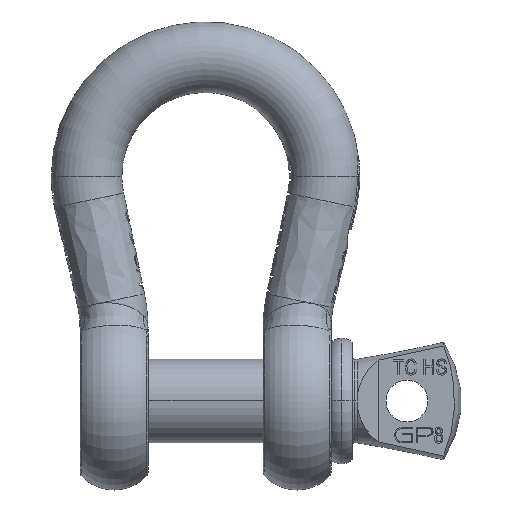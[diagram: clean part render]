
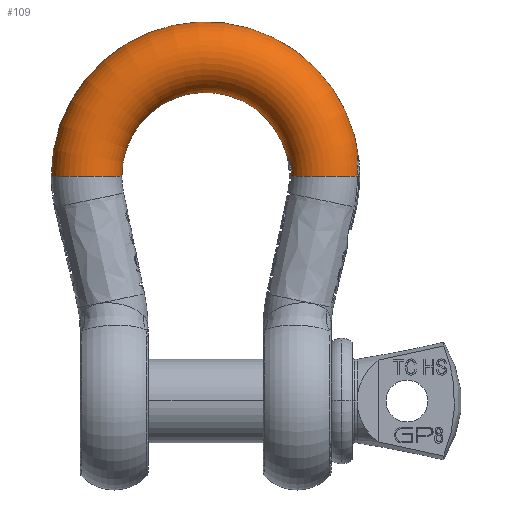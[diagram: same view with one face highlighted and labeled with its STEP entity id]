
A CAD part, top view. The second image highlights one B-rep face of the part: STEP entity #109.
In plain terms, the highlighted toroidal (fillet/blend) face has major radius 22.75 mm and minor radius 6.75 mm.
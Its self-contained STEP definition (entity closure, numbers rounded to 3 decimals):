
#109=ADVANCED_FACE('',(#653),#654,.T.);
#653=FACE_OUTER_BOUND('',#2338,.T.);
#654=TOROIDAL_SURFACE('',#2339,22.75,6.75);
#2338=EDGE_LOOP('',(#9007,#9008,#9009,#9010,#9011,#9012,#9013,#9014,#9015,#9016,#9017,#9018,#9019,#9020));
#2339=AXIS2_PLACEMENT_3D('',#9021,#9022,#9023);
#9007=ORIENTED_EDGE('',*,*,#12637,.T.);
#9008=ORIENTED_EDGE('',*,*,#12701,.T.);
#9009=ORIENTED_EDGE('',*,*,#12702,.T.);
#9010=ORIENTED_EDGE('',*,*,#12646,.T.);
#9011=ORIENTED_EDGE('',*,*,#12703,.T.);
#9012=ORIENTED_EDGE('',*,*,#12704,.T.);
#9013=ORIENTED_EDGE('',*,*,#12705,.T.);
#9014=ORIENTED_EDGE('',*,*,#12640,.T.);
#9015=ORIENTED_EDGE('',*,*,#12706,.T.);
#9016=ORIENTED_EDGE('',*,*,#12707,.T.);
#9017=ORIENTED_EDGE('',*,*,#12708,.T.);
#9018=ORIENTED_EDGE('',*,*,#12657,.T.);
#9019=ORIENTED_EDGE('',*,*,#12709,.T.);
#9020=ORIENTED_EDGE('',*,*,#12710,.T.);
#9021=CARTESIAN_POINT('',(0.0,43.0,0.0));
#9022=DIRECTION('',(0.0,0.0,1.0));
#9023=DIRECTION('',(1.0,0.0,0.0));
#12637=EDGE_CURVE('',#14249,#14177,#14250,.T.);
#12640=EDGE_CURVE('',#14254,#14238,#14255,.T.);
#12646=EDGE_CURVE('',#14180,#14264,#14266,.T.);
#12657=EDGE_CURVE('',#14285,#14282,#14286,.T.);
#12701=EDGE_CURVE('',#14177,#14368,#14369,.T.);
#12702=EDGE_CURVE('',#14368,#14180,#14370,.T.);
#12703=EDGE_CURVE('',#14264,#14371,#14372,.T.);
#12704=EDGE_CURVE('',#14371,#14373,#14374,.T.);
#12705=EDGE_CURVE('',#14373,#14254,#14375,.T.);
#12706=EDGE_CURVE('',#14238,#14376,#14377,.T.);
#12707=EDGE_CURVE('',#14376,#14378,#14379,.T.);
#12708=EDGE_CURVE('',#14378,#14285,#14380,.T.);
#12709=EDGE_CURVE('',#14282,#14381,#14382,.T.);
#12710=EDGE_CURVE('',#14381,#14249,#14383,.T.);
#14177=VERTEX_POINT('',#18127);
#14180=VERTEX_POINT('',#18130);
#14238=VERTEX_POINT('',#18296);
#14249=VERTEX_POINT('',#18315);
#14250=CIRCLE('',#18316,29.5);
#14254=VERTEX_POINT('',#18325);
#14255=CIRCLE('',#18326,16.0);
#14264=VERTEX_POINT('',#18366);
#14266=CIRCLE('',#18383,16.0);
#14282=VERTEX_POINT('',#18405);
#14285=VERTEX_POINT('',#18409);
#14286=B_SPLINE_CURVE_WITH_KNOTS('',3,(#18410,#18411,#18412,#18413,#18414,#18415,#18416,#18417,#18418,#18419,#18420,#18421,#18422,#18423),.UNSPECIFIED.,.F.,.F.,(4,2,2,2,2,2,4),(0.,0.,0.001,0.001,0.002,0.003,0.003),.UNSPECIFIED.);
#14368=VERTEX_POINT('',#18619);
#14369=CIRCLE('',#18620,6.75);
#14370=CIRCLE('',#18621,6.75);
#14371=VERTEX_POINT('',#18622);
#14372=B_SPLINE_CURVE_WITH_KNOTS('',3,(#18623,#18624,#18625,#18626,#18627,#18628,#18629,#18630,#18631,#18632,#18633,#18634,#18635,#18636,#18637,#18638),.UNSPECIFIED.,.F.,.F.,(4,2,2,2,2,2,2,4),(0.,0.,0.001,0.002,0.002,0.003,0.003,0.004),.UNSPECIFIED.);
#14373=VERTEX_POINT('',#18639);
#14374=CIRCLE('',#18640,16.48);
#14375=B_SPLINE_CURVE_WITH_KNOTS('',3,(#18641,#18642,#18643,#18644,#18645,#18646,#18647,#18648,#18649,#18650,#18651,#18652),.UNSPECIFIED.,.F.,.F.,(4,2,2,2,2,4),(0.,0.001,0.002,0.003,0.004,0.005),.UNSPECIFIED.);
#14376=VERTEX_POINT('',#18653);
#14377=CIRCLE('',#18654,6.75);
#14378=VERTEX_POINT('',#18655);
#14379=CIRCLE('',#18656,29.021);
#14380=B_SPLINE_CURVE_WITH_KNOTS('',3,(#18657,#18658,#18659,#18660),.UNSPECIFIED.,.F.,.F.,(4,4),(0.001,0.002),.UNSPECIFIED.);
#14381=VERTEX_POINT('',#18661);
#14382=B_SPLINE_CURVE_WITH_KNOTS('',3,(#18662,#18663,#18664,#18665,#18666,#18667,#18668,#18669,#18670,#18671,#18672,#18673,#18674,#18675),.UNSPECIFIED.,.F.,.F.,(4,2,2,2,2,2,4),(0.,0.,0.001,0.001,0.002,0.003,0.003),.UNSPECIFIED.);
#14383=B_SPLINE_CURVE_WITH_KNOTS('',3,(#18676,#18677,#18678,#18679,#18680,#18681),.UNSPECIFIED.,.F.,.F.,(4,2,4),(0.,0.001,0.001),.UNSPECIFIED.);
#18127=CARTESIAN_POINT('',(-29.5,43.0,0.));
#18130=CARTESIAN_POINT('',(-16.0,43.0,0.));
#18296=CARTESIAN_POINT('',(16.0,43.0,0.));
#18315=CARTESIAN_POINT('',(29.361,45.858,0.));
#18316=AXIS2_PLACEMENT_3D('',#24633,#24634,#24635);
#18325=CARTESIAN_POINT('',(15.991,43.533,0.));
#18326=AXIS2_PLACEMENT_3D('',#24639,#24640,#24641);
#18366=CARTESIAN_POINT('',(15.469,47.09,0.));
#18383=AXIS2_PLACEMENT_3D('',#24645,#24646,#24647);
#18405=CARTESIAN_POINT('',(29.158,46.744,1.171));
#18409=CARTESIAN_POINT('',(28.932,45.975,2.33));
#18410=CARTESIAN_POINT('',(28.932,45.975,2.33));
#18411=CARTESIAN_POINT('',(28.936,46.089,2.288));
#18412=CARTESIAN_POINT('',(28.946,46.195,2.23));
#18413=CARTESIAN_POINT('',(28.974,46.386,2.083));
#18414=CARTESIAN_POINT('',(28.992,46.469,1.996));
#18415=CARTESIAN_POINT('',(29.054,46.673,1.702));
#18416=CARTESIAN_POINT('',(29.104,46.744,1.464));
#18417=CARTESIAN_POINT('',(29.192,46.746,0.99));
#18418=CARTESIAN_POINT('',(29.231,46.675,0.75));
#18419=CARTESIAN_POINT('',(29.279,46.483,0.448));
#18420=CARTESIAN_POINT('',(29.294,46.404,0.355));
#18421=CARTESIAN_POINT('',(29.321,46.226,0.195));
#18422=CARTESIAN_POINT('',(29.333,46.127,0.128));
#18423=CARTESIAN_POINT('',(29.345,46.018,0.074));
#18619=CARTESIAN_POINT('',(-22.75,43.0,6.75));
#18620=AXIS2_PLACEMENT_3D('',#24748,#24749,#24750);
#18621=AXIS2_PLACEMENT_3D('',#24751,#24752,#24753);
#18622=CARTESIAN_POINT('',(16.363,44.962,2.5));
#18623=CARTESIAN_POINT('',(15.468,47.09,-0.027));
#18624=CARTESIAN_POINT('',(15.468,47.088,0.135));
#18625=CARTESIAN_POINT('',(15.475,47.082,0.296));
#18626=CARTESIAN_POINT('',(15.507,47.045,0.613));
#18627=CARTESIAN_POINT('',(15.532,47.015,0.77));
#18628=CARTESIAN_POINT('',(15.63,46.889,1.232));
#18629=CARTESIAN_POINT('',(15.724,46.759,1.511));
#18630=CARTESIAN_POINT('',(15.888,46.493,1.886));
#18631=CARTESIAN_POINT('',(15.945,46.392,1.998));
#18632=CARTESIAN_POINT('',(16.058,46.162,2.195));
#18633=CARTESIAN_POINT('',(16.113,46.03,2.276));
#18634=CARTESIAN_POINT('',(16.208,45.747,2.395));
#18635=CARTESIAN_POINT('',(16.25,45.594,2.437));
#18636=CARTESIAN_POINT('',(16.318,45.282,2.49));
#18637=CARTESIAN_POINT('',(16.343,45.123,2.497));
#18638=CARTESIAN_POINT('',(16.363,44.962,2.5));
#18639=CARTESIAN_POINT('',(16.474,43.433,2.5));
#18640=AXIS2_PLACEMENT_3D('',#24754,#24755,#24756);
#18641=CARTESIAN_POINT('',(16.474,43.433,2.5));
#18642=CARTESIAN_POINT('',(16.314,43.466,2.101));
#18643=CARTESIAN_POINT('',(16.195,43.491,1.693));
#18644=CARTESIAN_POINT('',(16.073,43.516,1.068));
#18645=CARTESIAN_POINT('',(16.043,43.522,0.857));
#18646=CARTESIAN_POINT('',(16.002,43.531,0.431));
#18647=CARTESIAN_POINT('',(15.991,43.533,0.215));
#18648=CARTESIAN_POINT('',(15.991,43.533,-0.427));
#18649=CARTESIAN_POINT('',(16.032,43.525,-0.85));
#18650=CARTESIAN_POINT('',(16.193,43.491,-1.686));
#18651=CARTESIAN_POINT('',(16.314,43.466,-2.101));
#18652=CARTESIAN_POINT('',(16.474,43.433,-2.5));
#18653=CARTESIAN_POINT('',(29.021,43.0,2.496));
#18654=AXIS2_PLACEMENT_3D('',#24757,#24758,#24759);
#18655=CARTESIAN_POINT('',(28.95,45.042,2.496));
#18656=AXIS2_PLACEMENT_3D('',#24760,#24761,#24762);
#18657=CARTESIAN_POINT('',(28.95,45.042,2.496));
#18658=CARTESIAN_POINT('',(28.927,45.362,2.496));
#18659=CARTESIAN_POINT('',(28.922,45.673,2.443));
#18660=CARTESIAN_POINT('',(28.932,45.975,2.33));
#18661=CARTESIAN_POINT('',(29.345,46.018,0.074));
#18662=CARTESIAN_POINT('',(28.932,45.975,2.33));
#18663=CARTESIAN_POINT('',(28.936,46.089,2.288));
#18664=CARTESIAN_POINT('',(28.946,46.195,2.23));
#18665=CARTESIAN_POINT('',(28.974,46.386,2.083));
#18666=CARTESIAN_POINT('',(28.992,46.469,1.996));
#18667=CARTESIAN_POINT('',(29.054,46.673,1.702));
#18668=CARTESIAN_POINT('',(29.104,46.744,1.464));
#18669=CARTESIAN_POINT('',(29.192,46.746,0.99));
#18670=CARTESIAN_POINT('',(29.231,46.675,0.75));
#18671=CARTESIAN_POINT('',(29.279,46.483,0.448));
#18672=CARTESIAN_POINT('',(29.294,46.404,0.355));
#18673=CARTESIAN_POINT('',(29.321,46.226,0.195));
#18674=CARTESIAN_POINT('',(29.333,46.127,0.128));
#18675=CARTESIAN_POINT('',(29.345,46.018,0.074));
#18676=CARTESIAN_POINT('',(29.345,46.018,0.074));
#18677=CARTESIAN_POINT('',(29.366,45.825,-0.022));
#18678=CARTESIAN_POINT('',(29.383,45.624,-0.095));
#18679=CARTESIAN_POINT('',(29.415,45.209,-0.193));
#18680=CARTESIAN_POINT('',(29.43,44.992,-0.218));
#18681=CARTESIAN_POINT('',(29.443,44.778,-0.218));
#24633=CARTESIAN_POINT('',(0.0,43.0,0.));
#24634=DIRECTION('',(0.0,0.0,1.0));
#24635=DIRECTION('',(1.0,0.0,0.0));
#24639=CARTESIAN_POINT('',(0.0,43.0,0.));
#24640=DIRECTION('',(0.0,0.0,-1.0));
#24641=DIRECTION('',(1.0,0.0,0.0));
#24645=CARTESIAN_POINT('',(0.0,43.0,0.));
#24646=DIRECTION('',(0.0,0.0,-1.0));
#24647=DIRECTION('',(1.0,0.0,0.0));
#24748=CARTESIAN_POINT('',(-22.75,43.0,0.0));
#24749=DIRECTION('',(0.0,1.0,0.0));
#24750=DIRECTION('',(0.0,0.0,1.0));
#24751=CARTESIAN_POINT('',(-22.75,43.0,0.0));
#24752=DIRECTION('',(0.0,1.0,0.0));
#24753=DIRECTION('',(0.0,0.0,1.0));
#24754=CARTESIAN_POINT('',(0.,43.0,2.5));
#24755=DIRECTION('',(0.,0.,-1.0));
#24756=DIRECTION('',(0.0,1.0,0.));
#24757=CARTESIAN_POINT('',(22.75,43.0,0.0));
#24758=DIRECTION('',(0.0,1.0,0.0));
#24759=DIRECTION('',(0.0,0.0,1.0));
#24760=CARTESIAN_POINT('',(0.,43.0,2.496));
#24761=DIRECTION('',(0.,0.,1.0));
#24762=DIRECTION('',(0.0,-1.0,0.));
